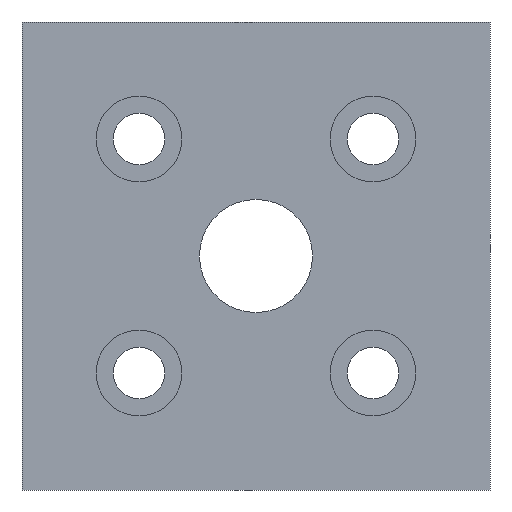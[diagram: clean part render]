
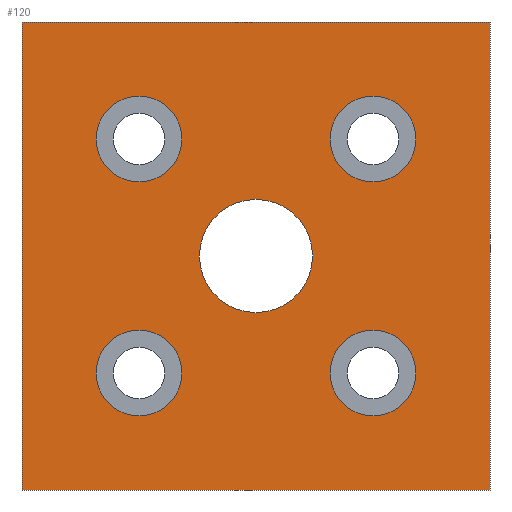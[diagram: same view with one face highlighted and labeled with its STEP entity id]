
A CAD part, front view. The second image highlights one B-rep face of the part: STEP entity #120.
In plain terms, the highlighted planar face has unit normal (0, -1, 0).
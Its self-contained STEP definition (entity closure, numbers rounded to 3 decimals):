
#2 = CARTESIAN_POINT ( 'NONE',  ( 60., 0., 0. ) ) ;
#13 = DIRECTION ( 'NONE',  ( 0., -1., 0. ) ) ;
#20 = VERTEX_POINT ( 'NONE', #650 ) ;
#27 = VECTOR ( 'NONE', #305, 1000. ) ;
#28 = VERTEX_POINT ( 'NONE', #218 ) ;
#45 = AXIS2_PLACEMENT_3D ( 'NONE', #518, #74, #592 ) ;
#49 = CIRCLE ( 'NONE', #45, 7.25 ) ;
#50 = AXIS2_PLACEMENT_3D ( 'NONE', #514, #70, #585 ) ;
#57 = AXIS2_PLACEMENT_3D ( 'NONE', #148, #664, #226 ) ;
#60 = VERTEX_POINT ( 'NONE', #842 ) ;
#70 = DIRECTION ( 'NONE',  ( 0., -1., 0. ) ) ;
#71 = FACE_BOUND ( 'NONE', #468, .T. ) ;
#74 = DIRECTION ( 'NONE',  ( 0., -1., 0. ) ) ;
#84 = CARTESIAN_POINT ( 'NONE',  ( 45., 0., -45. ) ) ;
#88 = CARTESIAN_POINT ( 'NONE',  ( 60., 0., -60. ) ) ;
#99 = FACE_BOUND ( 'NONE', #238, .T. ) ;
#119 = FACE_BOUND ( 'NONE', #261, .T. ) ;
#120 = ADVANCED_FACE ( 'NONE', ( #119, #663, #278, #71, #99, #471 ), #362, .T. ) ;
#123 = EDGE_CURVE ( 'NONE', #750, #568, #49, .T. ) ;
#127 = EDGE_LOOP ( 'NONE', ( #769, #815 ) ) ;
#133 = ORIENTED_EDGE ( 'NONE', *, *, #481, .F. ) ;
#135 = EDGE_CURVE ( 'NONE', #60, #558, #230, .T. ) ;
#143 = CARTESIAN_POINT ( 'NONE',  ( 15., 0., -15. ) ) ;
#144 = ORIENTED_EDGE ( 'NONE', *, *, #644, .F. ) ;
#148 = CARTESIAN_POINT ( 'NONE',  ( 30., 0., -30. ) ) ;
#149 = DIRECTION ( 'NONE',  ( 0., -1., 0. ) ) ;
#153 = CARTESIAN_POINT ( 'NONE',  ( 0., 0., 0. ) ) ;
#159 = LINE ( 'NONE', #833, #312 ) ;
#160 = VERTEX_POINT ( 'NONE', #860 ) ;
#168 = DIRECTION ( 'NONE',  ( 0., 0., -1. ) ) ;
#187 = EDGE_CURVE ( 'NONE', #558, #763, #566, .T. ) ;
#201 = CIRCLE ( 'NONE', #317, 5.5 ) ;
#216 = EDGE_CURVE ( 'NONE', #763, #400, #159, .T. ) ;
#218 = CARTESIAN_POINT ( 'NONE',  ( 45., 0., -39.5 ) ) ;
#219 = EDGE_LOOP ( 'NONE', ( #757, #133 ) ) ;
#220 = ORIENTED_EDGE ( 'NONE', *, *, #522, .F. ) ;
#223 = DIRECTION ( 'NONE',  ( 0., 0., -1. ) ) ;
#226 = DIRECTION ( 'NONE',  ( 0., 0., -1. ) ) ;
#230 = LINE ( 'NONE', #153, #27 ) ;
#238 = EDGE_LOOP ( 'NONE', ( #144, #459 ) ) ;
#239 = CARTESIAN_POINT ( 'NONE',  ( 15., 0., -15. ) ) ;
#257 = CARTESIAN_POINT ( 'NONE',  ( 0., 0., -60. ) ) ;
#258 = ORIENTED_EDGE ( 'NONE', *, *, #274, .F. ) ;
#261 = EDGE_LOOP ( 'NONE', ( #324, #220 ) ) ;
#269 = VECTOR ( 'NONE', #810, 1000. ) ;
#274 = EDGE_CURVE ( 'NONE', #400, #60, #817, .T. ) ;
#278 = FACE_BOUND ( 'NONE', #127, .T. ) ;
#295 = CARTESIAN_POINT ( 'NONE',  ( 15., 0., -20.5 ) ) ;
#305 = DIRECTION ( 'NONE',  ( 0., 0., 1. ) ) ;
#308 = DIRECTION ( 'NONE',  ( 0., 0., -1. ) ) ;
#312 = VECTOR ( 'NONE', #902, 1000. ) ;
#317 = AXIS2_PLACEMENT_3D ( 'NONE', #84, #606, #168 ) ;
#319 = DIRECTION ( 'NONE',  ( 0., -1., 0. ) ) ;
#324 = ORIENTED_EDGE ( 'NONE', *, *, #456, .F. ) ;
#327 = CIRCLE ( 'NONE', #687, 5.5 ) ;
#361 = CARTESIAN_POINT ( 'NONE',  ( 45., 0., -45. ) ) ;
#362 = PLANE ( 'NONE',  #50 ) ;
#367 = CARTESIAN_POINT ( 'NONE',  ( 30., 0., -37.25 ) ) ;
#368 = CARTESIAN_POINT ( 'NONE',  ( 30., 0., -22.75 ) ) ;
#372 = CIRCLE ( 'NONE', #608, 5.5 ) ;
#392 = CIRCLE ( 'NONE', #403, 5.5 ) ;
#398 = EDGE_CURVE ( 'NONE', #463, #479, #327, .T. ) ;
#400 = VERTEX_POINT ( 'NONE', #88 ) ;
#403 = AXIS2_PLACEMENT_3D ( 'NONE', #742, #319, #806 ) ;
#426 = DIRECTION ( 'NONE',  ( 0., -1., 0. ) ) ;
#438 = DIRECTION ( 'NONE',  ( 0., 0., -1. ) ) ;
#452 = DIRECTION ( 'NONE',  ( 1., 0., 0. ) ) ;
#456 = EDGE_CURVE ( 'NONE', #641, #160, #755, .T. ) ;
#458 = AXIS2_PLACEMENT_3D ( 'NONE', #462, #13, #535 ) ;
#459 = ORIENTED_EDGE ( 'NONE', *, *, #123, .F. ) ;
#462 = CARTESIAN_POINT ( 'NONE',  ( 15., 0., -45. ) ) ;
#463 = VERTEX_POINT ( 'NONE', #577 ) ;
#464 = AXIS2_PLACEMENT_3D ( 'NONE', #239, #737, #308 ) ;
#466 = EDGE_CURVE ( 'NONE', #28, #20, #372, .T. ) ;
#468 = EDGE_LOOP ( 'NONE', ( #910, #598 ) ) ;
#471 = FACE_OUTER_BOUND ( 'NONE', #830, .T. ) ;
#479 = VERTEX_POINT ( 'NONE', #726 ) ;
#481 = EDGE_CURVE ( 'NONE', #787, #685, #548, .T. ) ;
#508 = CIRCLE ( 'NONE', #57, 7.25 ) ;
#514 = CARTESIAN_POINT ( 'NONE',  ( 0., 0., -60. ) ) ;
#518 = CARTESIAN_POINT ( 'NONE',  ( 30., 0., -30. ) ) ;
#522 = EDGE_CURVE ( 'NONE', #160, #641, #694, .T. ) ;
#535 = DIRECTION ( 'NONE',  ( 0., 0., -1. ) ) ;
#548 = CIRCLE ( 'NONE', #580, 5.5 ) ;
#558 = VERTEX_POINT ( 'NONE', #724 ) ;
#566 = LINE ( 'NONE', #866, #900 ) ;
#568 = VERTEX_POINT ( 'NONE', #367 ) ;
#577 = CARTESIAN_POINT ( 'NONE',  ( 15., 0., -39.5 ) ) ;
#580 = AXIS2_PLACEMENT_3D ( 'NONE', #584, #149, #665 ) ;
#584 = CARTESIAN_POINT ( 'NONE',  ( 45., 0., -15. ) ) ;
#585 = DIRECTION ( 'NONE',  ( 0., 0., -1. ) ) ;
#592 = DIRECTION ( 'NONE',  ( 0., 0., -1. ) ) ;
#598 = ORIENTED_EDGE ( 'NONE', *, *, #398, .F. ) ;
#606 = DIRECTION ( 'NONE',  ( 0., -1., 0. ) ) ;
#608 = AXIS2_PLACEMENT_3D ( 'NONE', #361, #851, #438 ) ;
#611 = AXIS2_PLACEMENT_3D ( 'NONE', #143, #660, #223 ) ;
#619 = CIRCLE ( 'NONE', #458, 5.5 ) ;
#641 = VERTEX_POINT ( 'NONE', #295 ) ;
#644 = EDGE_CURVE ( 'NONE', #568, #750, #508, .T. ) ;
#650 = CARTESIAN_POINT ( 'NONE',  ( 45., 0., -50.5 ) ) ;
#660 = DIRECTION ( 'NONE',  ( 0., -1., 0. ) ) ;
#663 = FACE_BOUND ( 'NONE', #219, .T. ) ;
#664 = DIRECTION ( 'NONE',  ( 0., -1., 0. ) ) ;
#665 = DIRECTION ( 'NONE',  ( 0., 0., -1. ) ) ;
#671 = CARTESIAN_POINT ( 'NONE',  ( 45., 0., -9.5 ) ) ;
#685 = VERTEX_POINT ( 'NONE', #789 ) ;
#687 = AXIS2_PLACEMENT_3D ( 'NONE', #838, #426, #904 ) ;
#694 = CIRCLE ( 'NONE', #464, 5.5 ) ;
#724 = CARTESIAN_POINT ( 'NONE',  ( 0., 0., 0. ) ) ;
#726 = CARTESIAN_POINT ( 'NONE',  ( 15., 0., -50.5 ) ) ;
#737 = DIRECTION ( 'NONE',  ( 0., -1., 0. ) ) ;
#742 = CARTESIAN_POINT ( 'NONE',  ( 45., 0., -15. ) ) ;
#750 = VERTEX_POINT ( 'NONE', #368 ) ;
#755 = CIRCLE ( 'NONE', #611, 5.5 ) ;
#757 = ORIENTED_EDGE ( 'NONE', *, *, #857, .F. ) ;
#763 = VERTEX_POINT ( 'NONE', #2 ) ;
#769 = ORIENTED_EDGE ( 'NONE', *, *, #839, .F. ) ;
#774 = ORIENTED_EDGE ( 'NONE', *, *, #216, .F. ) ;
#787 = VERTEX_POINT ( 'NONE', #671 ) ;
#789 = CARTESIAN_POINT ( 'NONE',  ( 45., 0., -20.5 ) ) ;
#806 = DIRECTION ( 'NONE',  ( 0., 0., -1. ) ) ;
#810 = DIRECTION ( 'NONE',  ( -1., 0., 0. ) ) ;
#812 = ORIENTED_EDGE ( 'NONE', *, *, #135, .F. ) ;
#815 = ORIENTED_EDGE ( 'NONE', *, *, #466, .F. ) ;
#817 = LINE ( 'NONE', #257, #269 ) ;
#830 = EDGE_LOOP ( 'NONE', ( #812, #258, #774, #893 ) ) ;
#833 = CARTESIAN_POINT ( 'NONE',  ( 60., 0., 0. ) ) ;
#838 = CARTESIAN_POINT ( 'NONE',  ( 15., 0., -45. ) ) ;
#839 = EDGE_CURVE ( 'NONE', #20, #28, #201, .T. ) ;
#842 = CARTESIAN_POINT ( 'NONE',  ( 0., 0., -60. ) ) ;
#851 = DIRECTION ( 'NONE',  ( 0., -1., 0. ) ) ;
#857 = EDGE_CURVE ( 'NONE', #685, #787, #392, .T. ) ;
#860 = CARTESIAN_POINT ( 'NONE',  ( 15., 0., -9.5 ) ) ;
#863 = EDGE_CURVE ( 'NONE', #479, #463, #619, .T. ) ;
#866 = CARTESIAN_POINT ( 'NONE',  ( 0., 0., 0. ) ) ;
#893 = ORIENTED_EDGE ( 'NONE', *, *, #187, .F. ) ;
#900 = VECTOR ( 'NONE', #452, 1000. ) ;
#902 = DIRECTION ( 'NONE',  ( 0., 0., -1. ) ) ;
#904 = DIRECTION ( 'NONE',  ( 0., 0., -1. ) ) ;
#910 = ORIENTED_EDGE ( 'NONE', *, *, #863, .F. ) ;
